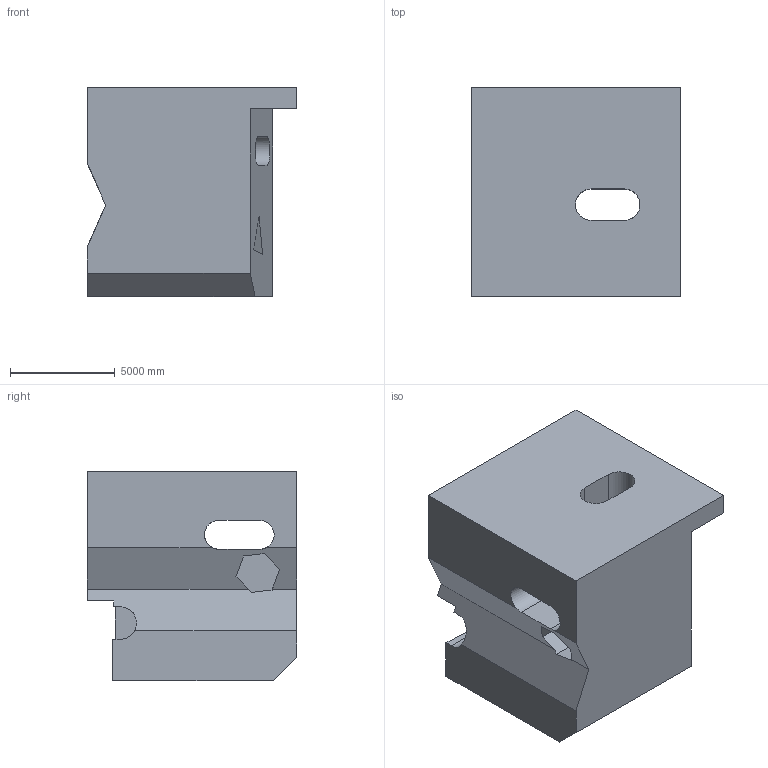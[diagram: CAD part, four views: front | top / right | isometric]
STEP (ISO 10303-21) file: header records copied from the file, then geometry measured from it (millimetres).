
FILE_DESCRIPTION (( 'STEP AP203' ), '1' );
FILE_NAME ('807.STEP', '2022-08-04T15:54:28', ( 'user' ), ( '' ), 'SwSTEP 2.0', 'SolidWorks 2021', '' );
FILE_SCHEMA (( 'CONFIG_CONTROL_DESIGN' ));
Length unit declared in the file: centimetre
Products named in the file (1): 807
Bounding box: 10000 x 10000 x 10000 mm (x, y, z)
Volume: 684600026268.3 mm3; surface area: 717204063 mm2
Topology: 1 solids, 1 shells, 42 faces, 126 edges, 84 vertices
Faces by surface type: plane 34, cylinder 8
Entity records: 1769 total; most frequent: CARTESIAN_POINT 552, ORIENTED_EDGE 252, DIRECTION 217, EDGE_CURVE 126, LINE 103, VECTOR 103, VERTEX_POINT 84, AXIS2_PLACEMENT_3D 57
